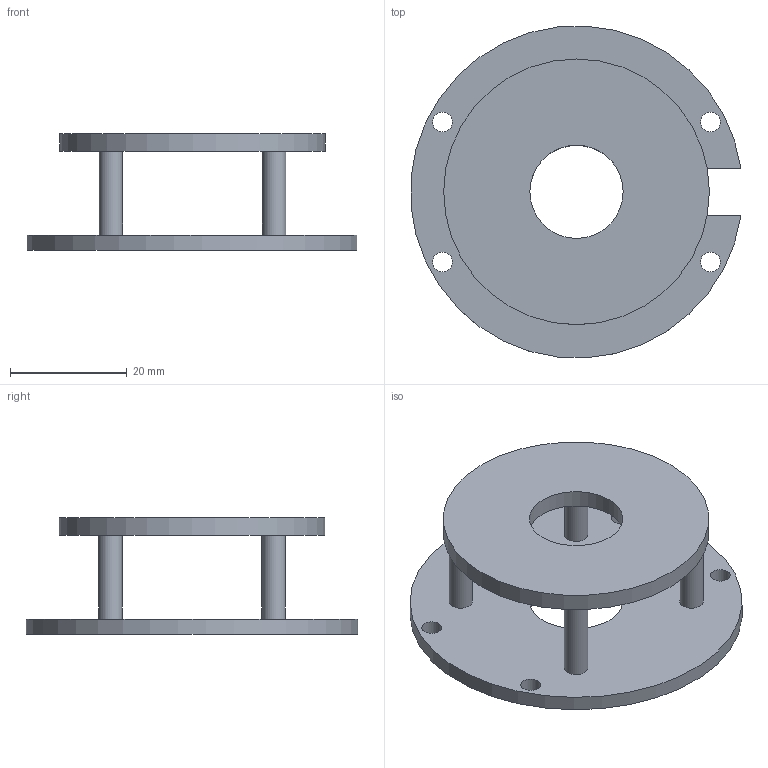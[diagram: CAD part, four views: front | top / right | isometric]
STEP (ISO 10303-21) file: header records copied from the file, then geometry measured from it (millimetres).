
FILE_DESCRIPTION(('FreeCAD Model'),'2;1');
FILE_NAME('Open CASCADE Shape Model','2026-09-19T18:07:28',('FreeCAD'),( 'FreeCAD'),'Open CASCADE STEP processor 7.8','FreeCAD','Unknown');
FILE_SCHEMA(('AUTOMOTIVE_DESIGN { 1 0 10303 214 1 1 1 1 }'));
Length unit declared in the file: millimetre
Products named in the file (1): Open CASCADE STEP translator 7.8 9
Bounding box: 56.61 x 56.9 x 20 mm (x, y, z)
Volume: 10605.7 mm3; surface area: 9140.1 mm2
Topology: 1 solids, 1 shells, 18 faces, 42 edges, 28 vertices
Faces by surface type: cylinder 12, plane 6
Full cylindrical faces by diameter (mm): 3.4 x4, 4 x4, 16 x1, 45.6 x1
Entity records: 572 total; most frequent: DIRECTION 104, CARTESIAN_POINT 89, ORIENTED_EDGE 84, AXIS2_PLACEMENT_3D 43, EDGE_CURVE 42, FACE_BOUND 36, EDGE_LOOP 36, VERTEX_POINT 28
